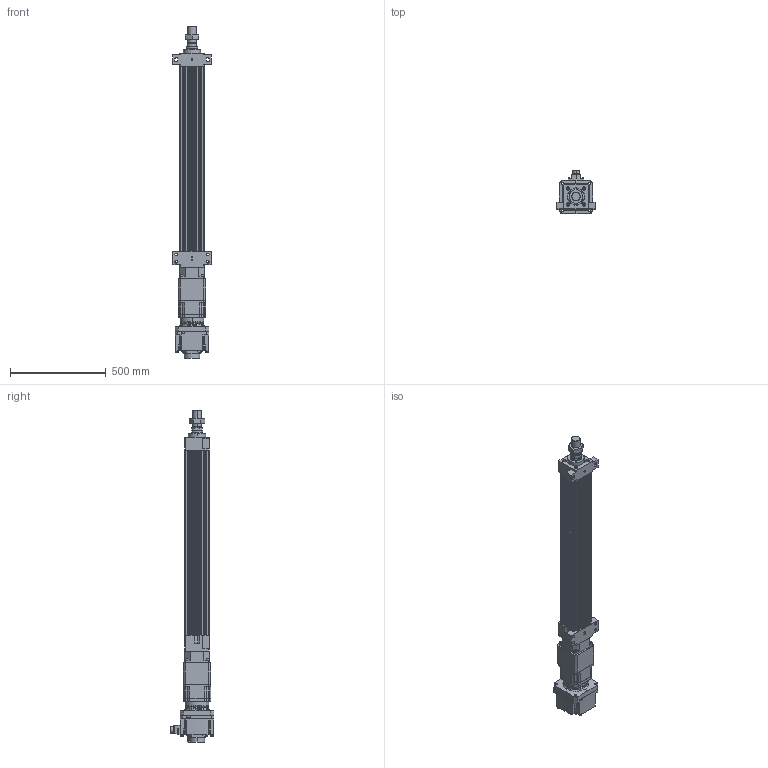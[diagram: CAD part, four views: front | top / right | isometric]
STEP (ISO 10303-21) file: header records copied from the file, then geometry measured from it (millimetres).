
FILE_DESCRIPTION (( 'STEP AP203' ), '1' );
FILE_NAME ('HES130FS(HS)-S750-W020G00-M-FFB.STEP', '2023-01-30T12:52:38', ( 'tms' ), ( '' ), 'SwSTEP 2.0', 'SolidWorks 2013', '' );
FILE_SCHEMA (( 'CONFIG_CONTROL_DESIGN' ));
Length unit declared in the file: millimetre
Products named in the file (9): AB142-003[HG-SR352]; P0403500801; M45X1.5P; P1301500001; AB1421; HES130 ROD M ST750; HES130FS(HS)-S750-W020G00-M-FFB; HES130-S750-G142-FFB; HG-SR202
Assembly tree (8 placements, depth 3):
  HES130FS(HS)-S750-W020G00-M-FFB
    HES130-S750-G142-FFB
    HES130 ROD M ST750
    M45X1.5P
    AB142-003[HG-SR352]
      AB1421
      P1301500001
      P0403500801
    HG-SR202
Bounding box: 200 x 228.85 x 1737.5 mm (x, y, z)
Volume: 15229305.3 mm3; surface area: 2017125.1 mm2
Topology: 4 solids, 22 shells, 1518 faces, 3922 edges, 2545 vertices
Faces by surface type: cylinder 676, plane 600, cone 160, bspline 76, torus 6
Entity records: 55270 total; most frequent: CARTESIAN_POINT 16778, DIRECTION 8032, ORIENTED_EDGE 7750, EDGE_CURVE 3897, AXIS2_PLACEMENT_3D 3016, VERTEX_POINT 2545, LINE 2000, VECTOR 2000
